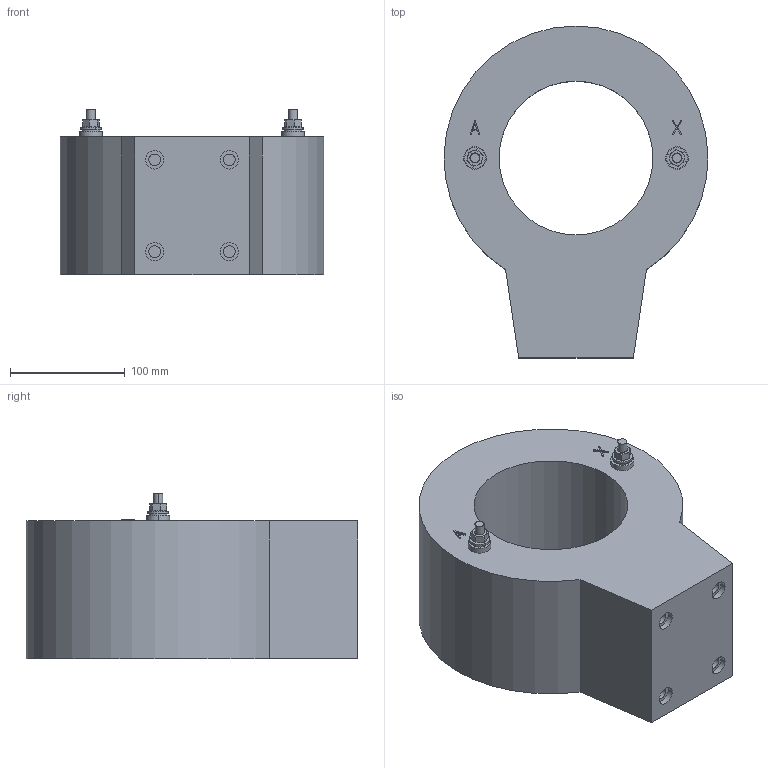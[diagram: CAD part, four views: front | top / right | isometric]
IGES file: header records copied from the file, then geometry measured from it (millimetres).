
Start section: IGES file generated from Kompas f.0 for Windows drawing by the IGES translator from Ascon Ltd., translator version IGESOUT-5.1.
Global section: file name: C:\Ðàáîòà\Èçâåùåíèÿ 5\ÐÎËÄ-ÍÒÇ (ÍÒÇ.08-027-2023)\3D\Ñáîðêà ÐÎËÄ.igs; native system: Kompas( 32 bit ) for Windows; preprocessor: 1.0; author: Ïîëüçîâàòåëü Windows; organization: Q; date: -17760324:131617; units: millimetre
Bounding box: 229.94 x 289 x 144 mm (x, y, z)
Volume: 4139451.9 mm3; surface area: 229815.6 mm2
Topology: 7 solids, 7 shells, 222 faces, 547 edges, 354 vertices
Faces by surface type: revolution 155, bspline 67
